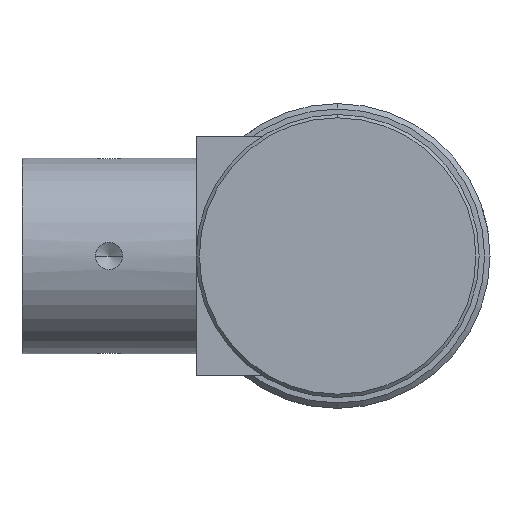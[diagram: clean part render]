
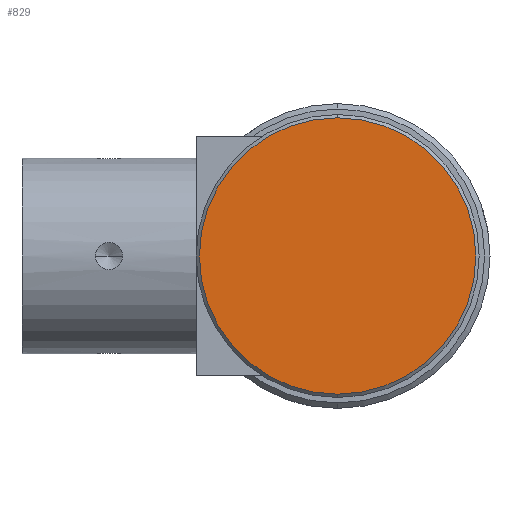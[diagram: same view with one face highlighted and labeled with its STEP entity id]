
A CAD part, left-side view. The second image highlights one B-rep face of the part: STEP entity #829.
In plain terms, the highlighted planar face has unit normal (-1, 0, 0).
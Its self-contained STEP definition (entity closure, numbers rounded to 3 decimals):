
#133 = CARTESIAN_POINT ( 'NONE',  ( -91., 0., 0. ) ) ;
#134 = DIRECTION ( 'NONE',  ( 0., 0., -1. ) ) ;
#156 = DIRECTION ( 'NONE',  ( -1., 0., 0. ) ) ;
#283 = DIRECTION ( 'NONE',  ( -1., 0., 0. ) ) ;
#291 = CARTESIAN_POINT ( 'NONE',  ( -91., 0., 0. ) ) ;
#297 = DIRECTION ( 'NONE',  ( 0., 0., -1. ) ) ;
#395 = EDGE_CURVE ( 'NONE', #1733, #1724, #2139, .T. ) ;
#439 = EDGE_CURVE ( 'NONE', #1724, #1733, #1283, .T. ) ;
#447 = AXIS2_PLACEMENT_3D ( 'NONE', #291, #283, #297 ) ;
#615 = EDGE_LOOP ( 'NONE', ( #769, #748 ) ) ;
#748 = ORIENTED_EDGE ( 'NONE', *, *, #439, .T. ) ;
#769 = ORIENTED_EDGE ( 'NONE', *, *, #395, .T. ) ;
#829 = ADVANCED_FACE ( 'NONE', ( #2346 ), #2456, .T. ) ;
#1283 = CIRCLE ( 'NONE', #1919, 12.7 ) ;
#1724 = VERTEX_POINT ( 'NONE', #2509 ) ;
#1733 = VERTEX_POINT ( 'NONE', #2527 ) ;
#1919 = AXIS2_PLACEMENT_3D ( 'NONE', #133, #156, #134 ) ;
#1969 = AXIS2_PLACEMENT_3D ( 'NONE', #2429, #2458, #2431 ) ;
#2139 = CIRCLE ( 'NONE', #447, 12.7 ) ;
#2346 = FACE_OUTER_BOUND ( 'NONE', #615, .T. ) ;
#2429 = CARTESIAN_POINT ( 'NONE',  ( -91., -12.852, -12.852 ) ) ;
#2431 = DIRECTION ( 'NONE',  ( 0., 0., 1. ) ) ;
#2456 = PLANE ( 'NONE',  #1969 ) ;
#2458 = DIRECTION ( 'NONE',  ( -1., 0., 0. ) ) ;
#2509 = CARTESIAN_POINT ( 'NONE',  ( -91., 0., 12.7 ) ) ;
#2527 = CARTESIAN_POINT ( 'NONE',  ( -91., 0., -12.7 ) ) ;
